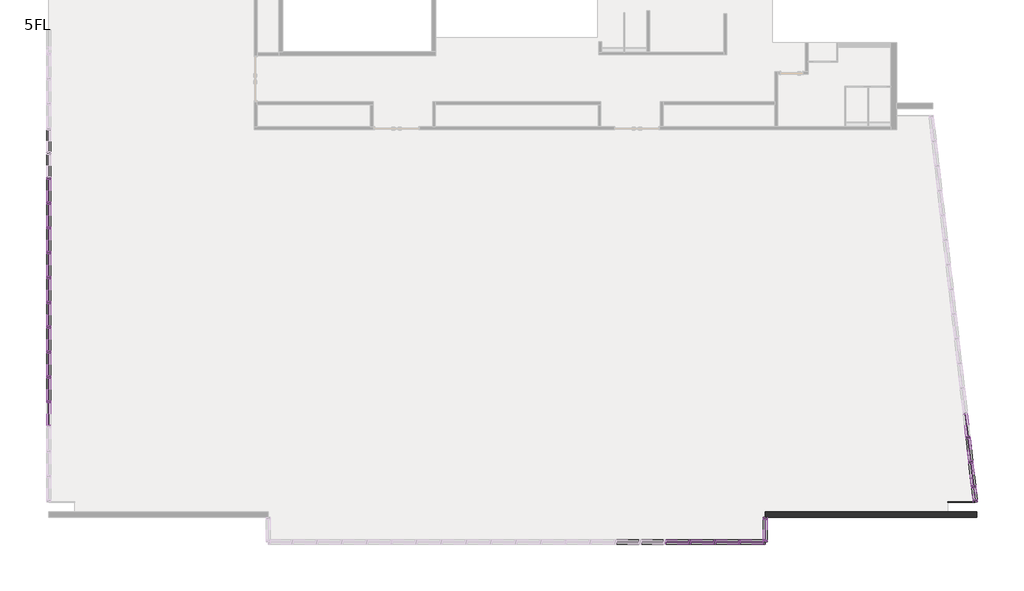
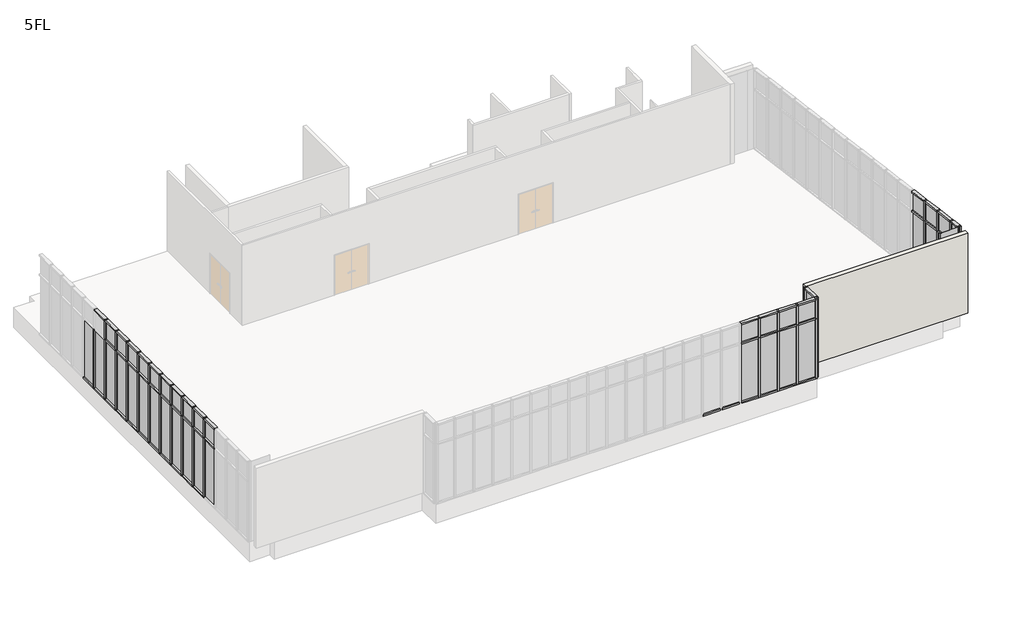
# One storey, part 2 of 4: 101 members, 42 plates, 1 wall.
"""IFC4 building model written with IfcOpenShell, lengths in millimetres."""

from ifc_helpers import new_model, si_unit, frame, origin, place, context, project, spatial, polyline, outline, extrude, transform, mapped, element, save
from components import member_70x150_cdd4dcf9, member_70x150_9a135ce4, member_70x150_66cf63de, member_70x150_26475b18, member_70x150_ad4265bc, member_70x150_e0eddb57, member_70x150_1b280ac3, member_70x150_76429c73, member_70x150_98b0aed0, member_70x150_87b27eb4, plate_d1366ea1, plate_5a60b334, plate_28587fd3, plate_4b01b467, plate_396bcf3c, plate_83f08a3e, plate_de90d239, plate_46ceffe4

model = new_model("IFC4")

# Units and contexts
model_context = context("Model", 3, world=origin())
ifc_project = project(units=[si_unit("LENGTHUNIT", "METRE", prefix="MILLI")], contexts=[model_context])

# Site, building, storey
site = spatial("IfcSite", under=ifc_project)
building = spatial("IfcBuilding", under=site)
storey = spatial("IfcBuildingStorey", under=building, Name="5FL", Elevation=16600.0)

# Members
placement = place(None, origin())
member_70x150_shape = member_70x150_cdd4dcf9(model_context)
element("IfcMember", 1, ObjectType="長方形のマリオン : 70x150", at=placement, inside=storey, context=model_context, shape_type="MappedRepresentation", body=[
    mapped(member_70x150_shape, transform((-5230.9784025, -4550.3131013, 16600.0), x_axis=(-1.0, 0.0, 0.0), y_axis=(0.0, 1.0, 0.0), z_axis=(0.0, 0.0, -1.0))),
])
element("IfcMember", 2, ObjectType="長方形のマリオン : 70x150", at=placement, inside=storey, context=model_context, shape_type="MappedRepresentation", body=[
    mapped(member_70x150_shape, transform((-4330.9784025, -4550.3131013, 16600.0), x_axis=(-1.0, 0.0, 0.0), y_axis=(0.0, 1.0, 0.0), z_axis=(0.0, 0.0, -1.0))),
])
element("IfcMember", 3, ObjectType="長方形のマリオン : 70x150", at=placement, inside=storey, context=model_context, shape_type="MappedRepresentation", body=[
    mapped(member_70x150_shape, transform((-6130.9784025, -4550.3131013, 16600.0), x_axis=(-1.0, 0.0, 0.0), y_axis=(0.0, 1.0, 0.0), z_axis=(0.0, 0.0, -1.0))),
])
element("IfcMember", 4, ObjectType="長方形のマリオン : 70x150", at=placement, inside=storey, context=model_context, shape_type="MappedRepresentation", body=[
    mapped(member_70x150_shape, transform((4147.3841348, -2547.7778257, 16600.0), x_axis=(0.11354659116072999, -0.9935326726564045, 0.0), y_axis=(-0.9935326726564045, -0.11354659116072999, 0.0), z_axis=(0.0, 0.0, -1.0))),
])
element("IfcMember", 5, ObjectType="長方形のマリオン : 70x150", at=placement, inside=storey, context=model_context, shape_type="MappedRepresentation", body=[
    mapped(member_70x150_shape, transform((4045.1922027, -1653.5984203, 16600.0), x_axis=(0.11354659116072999, -0.9935326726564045, 0.0), y_axis=(-0.9935326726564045, -0.11354659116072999, 0.0), z_axis=(0.0, 0.0, -1.0))),
])
element("IfcMember", 6, ObjectType="長方形のマリオン : 70x150", at=placement, inside=storey, context=model_context, shape_type="MappedRepresentation", body=[
    mapped(member_70x150_shape, transform((3943.0002707, -759.4190149, 16600.0), x_axis=(0.11354659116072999, -0.9935326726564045, 0.0), y_axis=(-0.9935326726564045, -0.11354659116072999, 0.0), z_axis=(0.0, 0.0, -1.0))),
])
element("IfcMember", 7, ObjectType="長方形のマリオン : 70x150", at=placement, inside=storey, context=model_context, shape_type="MappedRepresentation", body=[
    mapped(member_70x150_shape, transform((-29345.9784025, 9534.6868987, 16600.0), x_axis=(0.0, 1.0, 0.0), y_axis=(1.0, 0.0, 0.0), z_axis=(0.0, 0.0, -1.0))),
])
element("IfcMember", 8, ObjectType="長方形のマリオン : 70x150", at=placement, inside=storey, context=model_context, shape_type="MappedRepresentation", body=[
    mapped(member_70x150_shape, transform((-29345.9784025, 8634.6868987, 16600.0), x_axis=(0.0, 1.0, 0.0), y_axis=(1.0, 0.0, 0.0), z_axis=(0.0, 0.0, -1.0))),
])
element("IfcMember", 9, ObjectType="長方形のマリオン : 70x150", at=placement, inside=storey, context=model_context, shape_type="MappedRepresentation", body=[
    mapped(member_70x150_shape, transform((-29345.9784025, 7734.6868987, 16600.0), x_axis=(0.0, 1.0, 0.0), y_axis=(1.0, 0.0, 0.0), z_axis=(0.0, 0.0, -1.0))),
])
element("IfcMember", 10, ObjectType="長方形のマリオン : 70x150", at=placement, inside=storey, context=model_context, shape_type="MappedRepresentation", body=[
    mapped(member_70x150_shape, transform((-29345.9784025, 6834.6868987, 16600.0), x_axis=(0.0, 1.0, 0.0), y_axis=(1.0, 0.0, 0.0), z_axis=(0.0, 0.0, -1.0))),
])
element("IfcMember", 11, ObjectType="長方形のマリオン : 70x150", at=placement, inside=storey, context=model_context, shape_type="MappedRepresentation", body=[
    mapped(member_70x150_shape, transform((-29345.9784025, 5934.6868987, 16600.0), x_axis=(0.0, 1.0, 0.0), y_axis=(1.0, 0.0, 0.0), z_axis=(0.0, 0.0, -1.0))),
])
element("IfcMember", 12, ObjectType="長方形のマリオン : 70x150", at=placement, inside=storey, context=model_context, shape_type="MappedRepresentation", body=[
    mapped(member_70x150_shape, transform((-29345.9784025, 5034.6868987, 16600.0), x_axis=(0.0, 1.0, 0.0), y_axis=(1.0, 0.0, 0.0), z_axis=(0.0, 0.0, -1.0))),
])
element("IfcMember", 13, ObjectType="長方形のマリオン : 70x150", at=placement, inside=storey, context=model_context, shape_type="MappedRepresentation", body=[
    mapped(member_70x150_shape, transform((-29345.9784025, 4134.6868987, 16600.0), x_axis=(0.0, 1.0, 0.0), y_axis=(1.0, 0.0, 0.0), z_axis=(0.0, 0.0, -1.0))),
])
element("IfcMember", 14, ObjectType="長方形のマリオン : 70x150", at=placement, inside=storey, context=model_context, shape_type="MappedRepresentation", body=[
    mapped(member_70x150_shape, transform((-29345.9784025, 3234.6868987, 16600.0), x_axis=(0.0, 1.0, 0.0), y_axis=(1.0, 0.0, 0.0), z_axis=(0.0, 0.0, -1.0))),
])
element("IfcMember", 15, ObjectType="長方形のマリオン : 70x150", at=placement, inside=storey, context=model_context, shape_type="MappedRepresentation", body=[
    mapped(member_70x150_shape, transform((-29345.9784025, 2334.6868987, 16600.0), x_axis=(0.0, 1.0, 0.0), y_axis=(1.0, 0.0, 0.0), z_axis=(0.0, 0.0, -1.0))),
])
element("IfcMember", 16, ObjectType="長方形のマリオン : 70x150", at=placement, inside=storey, context=model_context, shape_type="MappedRepresentation", body=[
    mapped(member_70x150_shape, transform((-29345.9784025, 1434.6868987, 16600.0), x_axis=(0.0, 1.0, 0.0), y_axis=(1.0, 0.0, 0.0), z_axis=(0.0, 0.0, -1.0))),
])
element("IfcMember", 17, ObjectType="長方形のマリオン : 70x150", at=placement, inside=storey, context=model_context, shape_type="MappedRepresentation", body=[
    mapped(member_70x150_shape, transform((-29345.9784025, 534.6868987, 16600.0), x_axis=(0.0, 1.0, 0.0), y_axis=(1.0, 0.0, 0.0), z_axis=(0.0, 0.0, -1.0))),
])
member_70x150_2_shape = member_70x150_9a135ce4(model_context)
element("IfcMember", 18, ObjectType="長方形のマリオン : 70x150", at=placement, inside=storey, context=model_context, shape_type="MappedRepresentation", body=[
    mapped(member_70x150_2_shape, transform((-3395.9784025, -4480.3131013, 20600.0), x_axis=(0.0, 0.0, 1.0), y_axis=(-1.0, 0.0, 0.0), z_axis=(0.0, -1.0, 0.0))),
])
member_70x150_3_shape = member_70x150_66cf63de(model_context)
element("IfcMember", 19, ObjectType="長方形のマリオン : 70x150", at=placement, inside=storey, context=model_context, shape_type="MappedRepresentation", body=[
    mapped(member_70x150_3_shape, transform((-3465.9784025, -4550.3131013, 16600.0), x_axis=(0.0, 0.0, -1.0), y_axis=(0.0, 1.0, 0.0), z_axis=(1.0, 0.0, 0.0))),
])
element("IfcMember", 20, ObjectType="長方形のマリオン : 70x150", at=placement, inside=storey, context=model_context, shape_type="MappedRepresentation", body=[
    mapped(member_70x150_3_shape, transform((-7065.9784025, -4550.3131013, 16600.0), x_axis=(0.0, 0.0, -1.0), y_axis=(0.0, 1.0, 0.0), z_axis=(1.0, 0.0, 0.0))),
])
element("IfcMember", 21, ObjectType="長方形のマリオン : 70x150", at=placement, inside=storey, context=model_context, shape_type="MappedRepresentation", body=[
    mapped(member_70x150_3_shape, transform((-7965.9784025, -4550.3131013, 16600.0), x_axis=(0.0, 0.0, -1.0), y_axis=(0.0, 1.0, 0.0), z_axis=(1.0, 0.0, 0.0))),
])
element("IfcMember", 22, ObjectType="長方形のマリオン : 70x150", at=placement, inside=storey, context=model_context, shape_type="MappedRepresentation", body=[
    mapped(member_70x150_3_shape, transform((-4365.9784025, -4550.3131013, 16600.0), x_axis=(0.0, 0.0, -1.0), y_axis=(0.0, 1.0, 0.0), z_axis=(1.0, 0.0, 0.0))),
])
element("IfcMember", 23, ObjectType="長方形のマリオン : 70x150", at=placement, inside=storey, context=model_context, shape_type="MappedRepresentation", body=[
    mapped(member_70x150_3_shape, transform((-6165.9784025, -4550.3131013, 16600.0), x_axis=(0.0, 0.0, -1.0), y_axis=(0.0, 1.0, 0.0), z_axis=(1.0, 0.0, 0.0))),
])
element("IfcMember", 24, ObjectType="長方形のマリオン : 70x150", at=placement, inside=storey, context=model_context, shape_type="MappedRepresentation", body=[
    mapped(member_70x150_3_shape, transform((-5265.9784025, -4550.3131013, 16600.0), x_axis=(0.0, 0.0, -1.0), y_axis=(0.0, 1.0, 0.0), z_axis=(1.0, 0.0, 0.0))),
])
element("IfcMember", 25, ObjectType="長方形のマリオン : 70x150", at=placement, inside=storey, context=model_context, shape_type="MappedRepresentation", body=[
    mapped(member_70x150_3_shape, transform((4049.1663334, -1688.3720639, 16600.0), x_axis=(0.0, 0.0, -1.0), y_axis=(-0.9935326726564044, -0.11354659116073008, 0.0), z_axis=(-0.11354659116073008, 0.9935326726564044, 0.0))),
])
element("IfcMember", 26, ObjectType="長方形のマリオン : 70x150", at=placement, inside=storey, context=model_context, shape_type="MappedRepresentation", body=[
    mapped(member_70x150_3_shape, transform((3946.9744014, -794.1926585, 16600.0), x_axis=(0.0, 0.0, -1.0), y_axis=(-0.9935326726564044, -0.1135465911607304, 0.0), z_axis=(-0.11354659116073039, 0.9935326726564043, 0.0))),
])
element("IfcMember", 27, ObjectType="長方形のマリオン : 70x150", at=placement, inside=storey, context=model_context, shape_type="MappedRepresentation", body=[
    mapped(member_70x150_3_shape, transform((-29345.9784025, 9569.6868987, 16600.0), x_axis=(0.0, 0.0, -1.0), y_axis=(1.0, 0.0, 0.0), z_axis=(0.0, -1.0, 0.0))),
])
element("IfcMember", 28, ObjectType="長方形のマリオン : 70x150", at=placement, inside=storey, context=model_context, shape_type="MappedRepresentation", body=[
    mapped(member_70x150_3_shape, transform((-29345.9784025, 8669.6868987, 16600.0), x_axis=(0.0, 0.0, -1.0), y_axis=(1.0, 0.0, 0.0), z_axis=(0.0, -1.0, 0.0))),
])
element("IfcMember", 29, ObjectType="長方形のマリオン : 70x150", at=placement, inside=storey, context=model_context, shape_type="MappedRepresentation", body=[
    mapped(member_70x150_3_shape, transform((-29345.9784025, 7769.6868987, 16600.0), x_axis=(0.0, 0.0, -1.0), y_axis=(1.0, 0.0, 0.0), z_axis=(0.0, -1.0, 0.0))),
])
element("IfcMember", 30, ObjectType="長方形のマリオン : 70x150", at=placement, inside=storey, context=model_context, shape_type="MappedRepresentation", body=[
    mapped(member_70x150_3_shape, transform((-29345.9784025, 6869.6868987, 16600.0), x_axis=(0.0, 0.0, -1.0), y_axis=(1.0, 0.0, 0.0), z_axis=(0.0, -1.0, 0.0))),
])
element("IfcMember", 31, ObjectType="長方形のマリオン : 70x150", at=placement, inside=storey, context=model_context, shape_type="MappedRepresentation", body=[
    mapped(member_70x150_3_shape, transform((-29345.9784025, 5969.6868987, 16600.0), x_axis=(0.0, 0.0, -1.0), y_axis=(1.0, 0.0, 0.0), z_axis=(0.0, -1.0, 0.0))),
])
element("IfcMember", 32, ObjectType="長方形のマリオン : 70x150", at=placement, inside=storey, context=model_context, shape_type="MappedRepresentation", body=[
    mapped(member_70x150_3_shape, transform((-29345.9784025, 5069.6868987, 16600.0), x_axis=(0.0, 0.0, -1.0), y_axis=(1.0, 0.0, 0.0), z_axis=(0.0, -1.0, 0.0))),
])
element("IfcMember", 33, ObjectType="長方形のマリオン : 70x150", at=placement, inside=storey, context=model_context, shape_type="MappedRepresentation", body=[
    mapped(member_70x150_3_shape, transform((-29345.9784025, 4169.6868987, 16600.0), x_axis=(0.0, 0.0, -1.0), y_axis=(1.0, 0.0, 0.0), z_axis=(0.0, -1.0, 0.0))),
])
element("IfcMember", 34, ObjectType="長方形のマリオン : 70x150", at=placement, inside=storey, context=model_context, shape_type="MappedRepresentation", body=[
    mapped(member_70x150_3_shape, transform((-29345.9784025, 3269.6868987, 16600.0), x_axis=(0.0, 0.0, -1.0), y_axis=(1.0, 0.0, 0.0), z_axis=(0.0, -1.0, 0.0))),
])
element("IfcMember", 35, ObjectType="長方形のマリオン : 70x150", at=placement, inside=storey, context=model_context, shape_type="MappedRepresentation", body=[
    mapped(member_70x150_3_shape, transform((-29345.9784025, 2369.6868987, 16600.0), x_axis=(0.0, 0.0, -1.0), y_axis=(1.0, 0.0, 0.0), z_axis=(0.0, -1.0, 0.0))),
])
element("IfcMember", 36, ObjectType="長方形のマリオン : 70x150", at=placement, inside=storey, context=model_context, shape_type="MappedRepresentation", body=[
    mapped(member_70x150_3_shape, transform((-29345.9784025, 1469.6868987, 16600.0), x_axis=(0.0, 0.0, -1.0), y_axis=(1.0, 0.0, 0.0), z_axis=(0.0, -1.0, 0.0))),
])
element("IfcMember", 37, ObjectType="長方形のマリオン : 70x150", at=placement, inside=storey, context=model_context, shape_type="MappedRepresentation", body=[
    mapped(member_70x150_3_shape, transform((-29345.9784025, 569.6868987, 16600.0), x_axis=(0.0, 0.0, -1.0), y_axis=(1.0, 0.0, 0.0), z_axis=(0.0, -1.0, 0.0))),
])
element("IfcMember", 38, ObjectType="長方形のマリオン : 70x150", at=placement, inside=storey, context=model_context, shape_type="MappedRepresentation", body=[
    mapped(member_70x150_3_shape, transform((-6995.9784025, -4550.3131013, 20600.0), x_axis=(0.0, 0.0, 1.0), y_axis=(0.0, 1.0, 0.0), z_axis=(-1.0, 0.0, 0.0))),
])
element("IfcMember", 39, ObjectType="長方形のマリオン : 70x150", at=placement, inside=storey, context=model_context, shape_type="MappedRepresentation", body=[
    mapped(member_70x150_3_shape, transform((-6095.9784025, -4550.3131013, 20600.0), x_axis=(0.0, 0.0, 1.0), y_axis=(0.0, 1.0, 0.0), z_axis=(-1.0, 0.0, 0.0))),
])
element("IfcMember", 40, ObjectType="長方形のマリオン : 70x150", at=placement, inside=storey, context=model_context, shape_type="MappedRepresentation", body=[
    mapped(member_70x150_3_shape, transform((-5195.9784025, -4550.3131013, 20600.0), x_axis=(0.0, 0.0, 1.0), y_axis=(0.0, 1.0, 0.0), z_axis=(-1.0, 0.0, 0.0))),
])
element("IfcMember", 41, ObjectType="長方形のマリオン : 70x150", at=placement, inside=storey, context=model_context, shape_type="MappedRepresentation", body=[
    mapped(member_70x150_3_shape, transform((-4295.9784025, -4550.3131013, 20600.0), x_axis=(0.0, 0.0, 1.0), y_axis=(0.0, 1.0, 0.0), z_axis=(-1.0, 0.0, 0.0))),
])
element("IfcMember", 42, ObjectType="長方形のマリオン : 70x150", at=placement, inside=storey, context=model_context, shape_type="MappedRepresentation", body=[
    mapped(member_70x150_3_shape, transform((4143.4100041, -2513.0041822, 20600.0), x_axis=(0.0, 0.0, 1.0), y_axis=(-0.9935326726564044, -0.11354659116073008, 0.0), z_axis=(0.11354659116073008, -0.9935326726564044, 0.0))),
])
element("IfcMember", 43, ObjectType="長方形のマリオン : 70x150", at=placement, inside=storey, context=model_context, shape_type="MappedRepresentation", body=[
    mapped(member_70x150_3_shape, transform((4041.2180721, -1618.8247768, 20600.0), x_axis=(0.0, 0.0, 1.0), y_axis=(-0.9935326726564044, -0.1135465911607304, 0.0), z_axis=(0.11354659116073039, -0.9935326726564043, 0.0))),
])
element("IfcMember", 44, ObjectType="長方形のマリオン : 70x150", at=placement, inside=storey, context=model_context, shape_type="MappedRepresentation", body=[
    mapped(member_70x150_3_shape, transform((3939.02614, -724.6453714, 20600.0), x_axis=(0.0, 0.0, 1.0), y_axis=(-0.9935326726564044, -0.11354659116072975, 0.0), z_axis=(0.11354659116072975, -0.9935326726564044, 0.0))),
])
element("IfcMember", 45, ObjectType="長方形のマリオン : 70x150", at=placement, inside=storey, context=model_context, shape_type="MappedRepresentation", body=[
    mapped(member_70x150_3_shape, transform((-29345.9784025, 9499.6868987, 20600.0), x_axis=(0.0, 0.0, 1.0), y_axis=(1.0, 0.0, 0.0), z_axis=(0.0, 1.0, 0.0))),
])
element("IfcMember", 46, ObjectType="長方形のマリオン : 70x150", at=placement, inside=storey, context=model_context, shape_type="MappedRepresentation", body=[
    mapped(member_70x150_3_shape, transform((-29345.9784025, 8599.6868987, 20600.0), x_axis=(0.0, 0.0, 1.0), y_axis=(1.0, 0.0, 0.0), z_axis=(0.0, 1.0, 0.0))),
])
element("IfcMember", 47, ObjectType="長方形のマリオン : 70x150", at=placement, inside=storey, context=model_context, shape_type="MappedRepresentation", body=[
    mapped(member_70x150_3_shape, transform((-29345.9784025, 7699.6868987, 20600.0), x_axis=(0.0, 0.0, 1.0), y_axis=(1.0, 0.0, 0.0), z_axis=(0.0, 1.0, 0.0))),
])
element("IfcMember", 48, ObjectType="長方形のマリオン : 70x150", at=placement, inside=storey, context=model_context, shape_type="MappedRepresentation", body=[
    mapped(member_70x150_3_shape, transform((-29345.9784025, 6799.6868987, 20600.0), x_axis=(0.0, 0.0, 1.0), y_axis=(1.0, 0.0, 0.0), z_axis=(0.0, 1.0, 0.0))),
])
element("IfcMember", 49, ObjectType="長方形のマリオン : 70x150", at=placement, inside=storey, context=model_context, shape_type="MappedRepresentation", body=[
    mapped(member_70x150_3_shape, transform((-29345.9784025, 5899.6868987, 20600.0), x_axis=(0.0, 0.0, 1.0), y_axis=(1.0, 0.0, 0.0), z_axis=(0.0, 1.0, 0.0))),
])
element("IfcMember", 50, ObjectType="長方形のマリオン : 70x150", at=placement, inside=storey, context=model_context, shape_type="MappedRepresentation", body=[
    mapped(member_70x150_3_shape, transform((-29345.9784025, 4999.6868987, 20600.0), x_axis=(0.0, 0.0, 1.0), y_axis=(1.0, 0.0, 0.0), z_axis=(0.0, 1.0, 0.0))),
])
element("IfcMember", 51, ObjectType="長方形のマリオン : 70x150", at=placement, inside=storey, context=model_context, shape_type="MappedRepresentation", body=[
    mapped(member_70x150_3_shape, transform((-29345.9784025, 4099.6868987, 20600.0), x_axis=(0.0, 0.0, 1.0), y_axis=(1.0, 0.0, 0.0), z_axis=(0.0, 1.0, 0.0))),
])
element("IfcMember", 52, ObjectType="長方形のマリオン : 70x150", at=placement, inside=storey, context=model_context, shape_type="MappedRepresentation", body=[
    mapped(member_70x150_3_shape, transform((-29345.9784025, 3199.6868987, 20600.0), x_axis=(0.0, 0.0, 1.0), y_axis=(1.0, 0.0, 0.0), z_axis=(0.0, 1.0, 0.0))),
])
element("IfcMember", 53, ObjectType="長方形のマリオン : 70x150", at=placement, inside=storey, context=model_context, shape_type="MappedRepresentation", body=[
    mapped(member_70x150_3_shape, transform((-29345.9784025, 2299.6868987, 20600.0), x_axis=(0.0, 0.0, 1.0), y_axis=(1.0, 0.0, 0.0), z_axis=(0.0, 1.0, 0.0))),
])
element("IfcMember", 54, ObjectType="長方形のマリオン : 70x150", at=placement, inside=storey, context=model_context, shape_type="MappedRepresentation", body=[
    mapped(member_70x150_3_shape, transform((-29345.9784025, 1399.6868987, 20600.0), x_axis=(0.0, 0.0, 1.0), y_axis=(1.0, 0.0, 0.0), z_axis=(0.0, 1.0, 0.0))),
])
element("IfcMember", 55, ObjectType="長方形のマリオン : 70x150", at=placement, inside=storey, context=model_context, shape_type="MappedRepresentation", body=[
    mapped(member_70x150_3_shape, transform((-29345.9784025, 499.6868987, 20600.0), x_axis=(0.0, 0.0, 1.0), y_axis=(1.0, 0.0, 0.0), z_axis=(0.0, 1.0, 0.0))),
])
element("IfcMember", 56, ObjectType="長方形のマリオン : 70x150", at=placement, inside=storey, context=model_context, shape_type="MappedRepresentation", body=[
    mapped(member_70x150_2_shape, transform((-3395.9784025, -3720.3131013, 16600.0), x_axis=(0.0, 0.0, -1.0), y_axis=(-1.0, 0.0, 0.0), z_axis=(0.0, 1.0, 0.0))),
])
member_70x150_4_shape = member_70x150_26475b18(model_context)
element("IfcMember", 57, ObjectType="長方形のマリオン : 70x150", at=placement, inside=storey, context=model_context, shape_type="MappedRepresentation", body=[
    mapped(member_70x150_4_shape, transform((-6130.9784025, -4550.3131013, 19600.0), x_axis=(-1.0, 0.0, 0.0), y_axis=(0.0, 1.0, 0.0), z_axis=(0.0, 0.0, -1.0))),
])
element("IfcMember", 58, ObjectType="長方形のマリオン : 70x150", at=placement, inside=storey, context=model_context, shape_type="MappedRepresentation", body=[
    mapped(member_70x150_4_shape, transform((-5230.9784025, -4550.3131013, 19600.0), x_axis=(-1.0, 0.0, 0.0), y_axis=(0.0, 1.0, 0.0), z_axis=(0.0, 0.0, -1.0))),
])
element("IfcMember", 59, ObjectType="長方形のマリオン : 70x150", at=placement, inside=storey, context=model_context, shape_type="MappedRepresentation", body=[
    mapped(member_70x150_4_shape, transform((-4330.9784025, -4550.3131013, 19600.0), x_axis=(-1.0, 0.0, 0.0), y_axis=(0.0, 1.0, 0.0), z_axis=(0.0, 0.0, -1.0))),
])
element("IfcMember", 60, ObjectType="長方形のマリオン : 70x150", at=placement, inside=storey, context=model_context, shape_type="MappedRepresentation", body=[
    mapped(member_70x150_4_shape, transform((3943.0002707, -759.4190149, 19600.0), x_axis=(0.11354659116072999, -0.9935326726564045, 0.0), y_axis=(-0.9935326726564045, -0.11354659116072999, 0.0), z_axis=(0.0, 0.0, -1.0))),
])
element("IfcMember", 61, ObjectType="長方形のマリオン : 70x150", at=placement, inside=storey, context=model_context, shape_type="MappedRepresentation", body=[
    mapped(member_70x150_4_shape, transform((4045.1922027, -1653.5984203, 19600.0), x_axis=(0.11354659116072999, -0.9935326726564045, 0.0), y_axis=(-0.9935326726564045, -0.11354659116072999, 0.0), z_axis=(0.0, 0.0, -1.0))),
])
element("IfcMember", 62, ObjectType="長方形のマリオン : 70x150", at=placement, inside=storey, context=model_context, shape_type="MappedRepresentation", body=[
    mapped(member_70x150_4_shape, transform((4147.3841348, -2547.7778257, 19600.0), x_axis=(0.11354659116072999, -0.9935326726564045, 0.0), y_axis=(-0.9935326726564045, -0.11354659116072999, 0.0), z_axis=(0.0, 0.0, -1.0))),
])
element("IfcMember", 63, ObjectType="長方形のマリオン : 70x150", at=placement, inside=storey, context=model_context, shape_type="MappedRepresentation", body=[
    mapped(member_70x150_4_shape, transform((-29345.9784025, 8634.6868987, 19600.0), x_axis=(0.0, 1.0, 0.0), y_axis=(1.0, 0.0, 0.0), z_axis=(0.0, 0.0, -1.0))),
])
element("IfcMember", 64, ObjectType="長方形のマリオン : 70x150", at=placement, inside=storey, context=model_context, shape_type="MappedRepresentation", body=[
    mapped(member_70x150_4_shape, transform((-29345.9784025, 7734.6868987, 19600.0), x_axis=(0.0, 1.0, 0.0), y_axis=(1.0, 0.0, 0.0), z_axis=(0.0, 0.0, -1.0))),
])
element("IfcMember", 65, ObjectType="長方形のマリオン : 70x150", at=placement, inside=storey, context=model_context, shape_type="MappedRepresentation", body=[
    mapped(member_70x150_4_shape, transform((-29345.9784025, 6834.6868987, 19600.0), x_axis=(0.0, 1.0, 0.0), y_axis=(1.0, 0.0, 0.0), z_axis=(0.0, 0.0, -1.0))),
])
element("IfcMember", 66, ObjectType="長方形のマリオン : 70x150", at=placement, inside=storey, context=model_context, shape_type="MappedRepresentation", body=[
    mapped(member_70x150_4_shape, transform((-29345.9784025, 5934.6868987, 19600.0), x_axis=(0.0, 1.0, 0.0), y_axis=(1.0, 0.0, 0.0), z_axis=(0.0, 0.0, -1.0))),
])
element("IfcMember", 67, ObjectType="長方形のマリオン : 70x150", at=placement, inside=storey, context=model_context, shape_type="MappedRepresentation", body=[
    mapped(member_70x150_4_shape, transform((-29345.9784025, 5034.6868987, 19600.0), x_axis=(0.0, 1.0, 0.0), y_axis=(1.0, 0.0, 0.0), z_axis=(0.0, 0.0, -1.0))),
])
element("IfcMember", 68, ObjectType="長方形のマリオン : 70x150", at=placement, inside=storey, context=model_context, shape_type="MappedRepresentation", body=[
    mapped(member_70x150_4_shape, transform((-29345.9784025, 4134.6868987, 19600.0), x_axis=(0.0, 1.0, 0.0), y_axis=(1.0, 0.0, 0.0), z_axis=(0.0, 0.0, -1.0))),
])
element("IfcMember", 69, ObjectType="長方形のマリオン : 70x150", at=placement, inside=storey, context=model_context, shape_type="MappedRepresentation", body=[
    mapped(member_70x150_4_shape, transform((-29345.9784025, 3234.6868987, 19600.0), x_axis=(0.0, 1.0, 0.0), y_axis=(1.0, 0.0, 0.0), z_axis=(0.0, 0.0, -1.0))),
])
element("IfcMember", 70, ObjectType="長方形のマリオン : 70x150", at=placement, inside=storey, context=model_context, shape_type="MappedRepresentation", body=[
    mapped(member_70x150_4_shape, transform((-29345.9784025, 2334.6868987, 19600.0), x_axis=(0.0, 1.0, 0.0), y_axis=(1.0, 0.0, 0.0), z_axis=(0.0, 0.0, -1.0))),
])
element("IfcMember", 71, ObjectType="長方形のマリオン : 70x150", at=placement, inside=storey, context=model_context, shape_type="MappedRepresentation", body=[
    mapped(member_70x150_4_shape, transform((-29345.9784025, 1434.6868987, 19600.0), x_axis=(0.0, 1.0, 0.0), y_axis=(1.0, 0.0, 0.0), z_axis=(0.0, 0.0, -1.0))),
])
element("IfcMember", 72, ObjectType="長方形のマリオン : 70x150", at=placement, inside=storey, context=model_context, shape_type="MappedRepresentation", body=[
    mapped(member_70x150_4_shape, transform((-29345.9784025, 534.6868987, 19600.0), x_axis=(0.0, 1.0, 0.0), y_axis=(1.0, 0.0, 0.0), z_axis=(0.0, 0.0, -1.0))),
])
member_70x150_5_shape = member_70x150_ad4265bc(model_context)
element("IfcMember", 73, ObjectType="長方形のマリオン : 70x150", at=placement, inside=storey, context=model_context, shape_type="MappedRepresentation", body=[
    mapped(member_70x150_5_shape, transform((-5195.9784025, -4550.3131013, 19600.0), x_axis=(0.0, 0.0, 1.0), y_axis=(0.0, 1.0, 0.0), z_axis=(-1.0, 0.0, 0.0))),
])
element("IfcMember", 74, ObjectType="長方形のマリオン : 70x150", at=placement, inside=storey, context=model_context, shape_type="MappedRepresentation", body=[
    mapped(member_70x150_5_shape, transform((-6995.9784025, -4550.3131013, 19600.0), x_axis=(0.0, 0.0, 1.0), y_axis=(0.0, 1.0, 0.0), z_axis=(-1.0, 0.0, 0.0))),
])
element("IfcMember", 75, ObjectType="長方形のマリオン : 70x150", at=placement, inside=storey, context=model_context, shape_type="MappedRepresentation", body=[
    mapped(member_70x150_5_shape, transform((-6095.9784025, -4550.3131013, 19600.0), x_axis=(0.0, 0.0, 1.0), y_axis=(0.0, 1.0, 0.0), z_axis=(-1.0, 0.0, 0.0))),
])
element("IfcMember", 76, ObjectType="長方形のマリオン : 70x150", at=placement, inside=storey, context=model_context, shape_type="MappedRepresentation", body=[
    mapped(member_70x150_5_shape, transform((-4295.9784025, -4550.3131013, 19600.0), x_axis=(0.0, 0.0, 1.0), y_axis=(0.0, 1.0, 0.0), z_axis=(-1.0, 0.0, 0.0))),
])
element("IfcMember", 77, ObjectType="長方形のマリオン : 70x150", at=placement, inside=storey, context=model_context, shape_type="MappedRepresentation", body=[
    mapped(member_70x150_5_shape, transform((4143.4100041, -2513.0041822, 19600.0), x_axis=(0.0, 0.0, 1.0), y_axis=(-0.9935326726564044, -0.11354659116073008, 0.0), z_axis=(0.11354659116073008, -0.9935326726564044, 0.0))),
])
element("IfcMember", 78, ObjectType="長方形のマリオン : 70x150", at=placement, inside=storey, context=model_context, shape_type="MappedRepresentation", body=[
    mapped(member_70x150_5_shape, transform((4041.2180721, -1618.8247768, 19600.0), x_axis=(0.0, 0.0, 1.0), y_axis=(-0.9935326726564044, -0.1135465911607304, 0.0), z_axis=(0.11354659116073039, -0.9935326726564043, 0.0))),
])
element("IfcMember", 79, ObjectType="長方形のマリオン : 70x150", at=placement, inside=storey, context=model_context, shape_type="MappedRepresentation", body=[
    mapped(member_70x150_5_shape, transform((3939.02614, -724.6453714, 19600.0), x_axis=(0.0, 0.0, 1.0), y_axis=(-0.9935326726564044, -0.11354659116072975, 0.0), z_axis=(0.11354659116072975, -0.9935326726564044, 0.0))),
])
element("IfcMember", 80, ObjectType="長方形のマリオン : 70x150", at=placement, inside=storey, context=model_context, shape_type="MappedRepresentation", body=[
    mapped(member_70x150_5_shape, transform((-29345.9784025, 2299.6868987, 19600.0), x_axis=(0.0, 0.0, 1.0), y_axis=(1.0, 0.0, 0.0), z_axis=(0.0, 1.0, 0.0))),
])
element("IfcMember", 81, ObjectType="長方形のマリオン : 70x150", at=placement, inside=storey, context=model_context, shape_type="MappedRepresentation", body=[
    mapped(member_70x150_5_shape, transform((-29345.9784025, 499.6868987, 19600.0), x_axis=(0.0, 0.0, 1.0), y_axis=(1.0, 0.0, 0.0), z_axis=(0.0, 1.0, 0.0))),
])
element("IfcMember", 82, ObjectType="長方形のマリオン : 70x150", at=placement, inside=storey, context=model_context, shape_type="MappedRepresentation", body=[
    mapped(member_70x150_5_shape, transform((-29345.9784025, 3199.6868987, 19600.0), x_axis=(0.0, 0.0, 1.0), y_axis=(1.0, 0.0, 0.0), z_axis=(0.0, 1.0, 0.0))),
])
element("IfcMember", 83, ObjectType="長方形のマリオン : 70x150", at=placement, inside=storey, context=model_context, shape_type="MappedRepresentation", body=[
    mapped(member_70x150_5_shape, transform((-29345.9784025, 5899.6868987, 19600.0), x_axis=(0.0, 0.0, 1.0), y_axis=(1.0, 0.0, 0.0), z_axis=(0.0, 1.0, 0.0))),
])
element("IfcMember", 84, ObjectType="長方形のマリオン : 70x150", at=placement, inside=storey, context=model_context, shape_type="MappedRepresentation", body=[
    mapped(member_70x150_5_shape, transform((-29345.9784025, 7699.6868987, 19600.0), x_axis=(0.0, 0.0, 1.0), y_axis=(1.0, 0.0, 0.0), z_axis=(0.0, 1.0, 0.0))),
])
element("IfcMember", 85, ObjectType="長方形のマリオン : 70x150", at=placement, inside=storey, context=model_context, shape_type="MappedRepresentation", body=[
    mapped(member_70x150_5_shape, transform((-29345.9784025, 4099.6868987, 19600.0), x_axis=(0.0, 0.0, 1.0), y_axis=(1.0, 0.0, 0.0), z_axis=(0.0, 1.0, 0.0))),
])
element("IfcMember", 86, ObjectType="長方形のマリオン : 70x150", at=placement, inside=storey, context=model_context, shape_type="MappedRepresentation", body=[
    mapped(member_70x150_5_shape, transform((-29345.9784025, 1399.6868987, 19600.0), x_axis=(0.0, 0.0, 1.0), y_axis=(1.0, 0.0, 0.0), z_axis=(0.0, 1.0, 0.0))),
])
element("IfcMember", 87, ObjectType="長方形のマリオン : 70x150", at=placement, inside=storey, context=model_context, shape_type="MappedRepresentation", body=[
    mapped(member_70x150_5_shape, transform((-29345.9784025, 8599.6868987, 19600.0), x_axis=(0.0, 0.0, 1.0), y_axis=(1.0, 0.0, 0.0), z_axis=(0.0, 1.0, 0.0))),
])
element("IfcMember", 88, ObjectType="長方形のマリオン : 70x150", at=placement, inside=storey, context=model_context, shape_type="MappedRepresentation", body=[
    mapped(member_70x150_5_shape, transform((-29345.9784025, 4999.6868987, 19600.0), x_axis=(0.0, 0.0, 1.0), y_axis=(1.0, 0.0, 0.0), z_axis=(0.0, 1.0, 0.0))),
])
element("IfcMember", 89, ObjectType="長方形のマリオン : 70x150", at=placement, inside=storey, context=model_context, shape_type="MappedRepresentation", body=[
    mapped(member_70x150_5_shape, transform((-29345.9784025, 6799.6868987, 19600.0), x_axis=(0.0, 0.0, 1.0), y_axis=(1.0, 0.0, 0.0), z_axis=(0.0, 1.0, 0.0))),
])
member_70x150_6_shape = member_70x150_e0eddb57(model_context)
element("IfcMember", 90, ObjectType="長方形のマリオン : 70x150", at=placement, inside=storey, context=model_context, shape_type="MappedRepresentation", body=[
    mapped(member_70x150_6_shape, transform((-3395.9784025, -4480.3131013, 19600.0), x_axis=(0.0, 0.0, 1.0), y_axis=(-1.0, 0.0, 0.0), z_axis=(0.0, -1.0, 0.0))),
])
member_70x150_7_shape = member_70x150_1b280ac3(model_context)
element("IfcMember", 91, ObjectType="長方形のマリオン : 70x150", at=placement, inside=storey, context=model_context, shape_type="MappedRepresentation", body=[
    mapped(member_70x150_7_shape, transform((4210.5310234, -3100.3131013, 16600.0), x_axis=(0.11354659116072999, -0.9935326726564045, 0.0), y_axis=(-0.9935326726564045, -0.11354659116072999, 0.0), z_axis=(0.0, 0.0, -1.0))),
])
element("IfcMember", 92, ObjectType="長方形のマリオン : 70x150", at=placement, inside=storey, context=model_context, shape_type="MappedRepresentation", body=[
    mapped(member_70x150_7_shape, transform((-3395.9784025, -4550.3131013, 16600.0), x_axis=(0.0, -1.0, 0.0), y_axis=(-1.0, 0.0, 0.0), z_axis=(0.0, 0.0, -1.0))),
])
member_70x150_8_shape = member_70x150_76429c73(model_context)
element("IfcMember", 93, ObjectType="長方形のマリオン : 70x150", at=placement, inside=storey, context=model_context, shape_type="MappedRepresentation", body=[
    mapped(member_70x150_8_shape, transform((-3395.9784025, -4550.3131013, 20600.0), x_axis=(1.0, 0.0, 0.0), y_axis=(0.0, 1.0, 0.0), z_axis=(0.0, 0.0, 1.0))),
])
element("IfcMember", 94, ObjectType="長方形のマリオン : 70x150", at=placement, inside=storey, context=model_context, shape_type="MappedRepresentation", body=[
    mapped(member_70x150_8_shape, transform((-3395.9784025, -3650.3131013, 20600.0), x_axis=(0.0, 1.0, 0.0), y_axis=(-1.0, 0.0, 0.0), z_axis=(0.0, 0.0, 1.0))),
])
element("IfcMember", 95, ObjectType="長方形のマリオン : 70x150", at=placement, inside=storey, context=model_context, shape_type="MappedRepresentation", body=[
    mapped(member_70x150_8_shape, transform((4210.5310234, -3100.3131013, 19600.0), x_axis=(0.11354659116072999, -0.9935326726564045, 0.0), y_axis=(-0.9935326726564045, -0.11354659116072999, 0.0), z_axis=(0.0, 0.0, -1.0))),
])
element("IfcMember", 96, ObjectType="長方形のマリオン : 70x150", at=placement, inside=storey, context=model_context, shape_type="MappedRepresentation", body=[
    mapped(member_70x150_8_shape, transform((-3395.9784025, -4550.3131013, 19600.0), x_axis=(0.0, -1.0, 0.0), y_axis=(-1.0, 0.0, 0.0), z_axis=(0.0, 0.0, -1.0))),
])
element("IfcMember", 97, ObjectType="長方形のマリオン : 70x150", at=placement, inside=storey, context=model_context, shape_type="MappedRepresentation", body=[
    mapped(member_70x150_7_shape, transform((-3395.9784025, -4550.3131013, 19600.0), x_axis=(1.0, 0.0, 0.0), y_axis=(0.0, 1.0, 0.0), z_axis=(0.0, 0.0, 1.0))),
])
element("IfcMember", 98, ObjectType="長方形のマリオン : 70x150", at=placement, inside=storey, context=model_context, shape_type="MappedRepresentation", body=[
    mapped(member_70x150_7_shape, transform((-3395.9784025, -3650.3131013, 19600.0), x_axis=(0.0, 1.0, 0.0), y_axis=(-1.0, 0.0, 0.0), z_axis=(0.0, 0.0, 1.0))),
])
member_70x150_9_shape = member_70x150_98b0aed0(model_context)
element("IfcMember", 99, ObjectType="長方形のマリオン : 70x150", at=placement, inside=storey, context=model_context, shape_type="MappedRepresentation", body=[
    mapped(member_70x150_9_shape, transform((4202.582762, -3030.7658142, 20600.0), x_axis=(0.0, 0.0, 1.0), y_axis=(-0.9935326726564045, -0.11354659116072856, 0.0), z_axis=(0.11354659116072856, -0.9935326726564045, 0.0))),
])
element("IfcMember", 100, ObjectType="長方形のマリオン : 70x150", at=placement, inside=storey, context=model_context, shape_type="MappedRepresentation", body=[
    mapped(member_70x150_9_shape, transform((4151.3582655, -2582.5514692, 16600.0), x_axis=(0.0, 0.0, -1.0), y_axis=(-0.9935326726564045, -0.11354659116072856, 0.0), z_axis=(-0.11354659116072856, 0.9935326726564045, 0.0))),
])
member_70x150_10_shape = member_70x150_87b27eb4(model_context)
element("IfcMember", 101, ObjectType="長方形のマリオン : 70x150", at=placement, inside=storey, context=model_context, shape_type="MappedRepresentation", body=[
    mapped(member_70x150_10_shape, transform((4202.582762, -3030.7658142, 19600.0), x_axis=(0.0, 0.0, 1.0), y_axis=(-0.9935326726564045, -0.11354659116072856, 0.0), z_axis=(0.11354659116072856, -0.9935326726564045, 0.0))),
])

# Plates
plate_shape = plate_d1366ea1(model_context)
element("IfcPlate", 102, ObjectType="システム パネル : 標準", at=placement, inside=storey, context=model_context, shape_type="MappedRepresentation", body=[
    mapped(plate_shape, transform((3760.5310234, -3100.3131013, 16600.0), x_axis=(-1.0, 0.0, 0.0), y_axis=(0.0, -1.0, 0.0), z_axis=(0.0, 0.0, 1.0))),
])
plate_2_shape = plate_5a60b334(model_context)
element("IfcPlate", 103, ObjectType="システム パネル : 標準", at=placement, inside=storey, context=model_context, shape_type="MappedRepresentation", body=[
    mapped(plate_2_shape, transform((3257.2763105, -3100.3131013, 16600.0), x_axis=(-1.0, 0.0, 0.0), y_axis=(0.0, -1.0, 0.0), z_axis=(0.0, 0.0, 1.0))),
])
plate_3_shape = plate_28587fd3(model_context)
element("IfcPlate", 104, ObjectType="システム パネル : 標準", at=placement, inside=storey, context=model_context, shape_type="MappedRepresentation", body=[
    mapped(plate_3_shape, transform((3891.9043047, -312.3293122, 16670.0), x_axis=(0.11354659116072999, -0.9935326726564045, 0.0), y_axis=(0.9935326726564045, 0.11354659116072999, 0.0), z_axis=(0.0, 0.0, 1.0))),
])
element("IfcPlate", 105, ObjectType="システム パネル : 標準", at=placement, inside=storey, context=model_context, shape_type="MappedRepresentation", body=[
    mapped(plate_3_shape, transform((3994.0962367, -1206.5087176, 16670.0), x_axis=(0.11354659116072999, -0.9935326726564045, 0.0), y_axis=(0.9935326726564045, 0.11354659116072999, 0.0), z_axis=(0.0, 0.0, 1.0))),
])
element("IfcPlate", 106, ObjectType="システム パネル : 標準", at=placement, inside=storey, context=model_context, shape_type="MappedRepresentation", body=[
    mapped(plate_3_shape, transform((4096.2881688, -2100.688123, 16670.0), x_axis=(0.11354659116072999, -0.9935326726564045, 0.0), y_axis=(0.9935326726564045, 0.11354659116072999, 0.0), z_axis=(0.0, 0.0, 1.0))),
])
element("IfcPlate", 107, ObjectType="システム パネル : 標準", at=placement, inside=storey, context=model_context, shape_type="MappedRepresentation", body=[
    mapped(plate_3_shape, transform((-29345.9784025, 84.6868987, 16670.0), x_axis=(0.0, 1.0, 0.0), y_axis=(-1.0, 0.0, 0.0), z_axis=(0.0, 0.0, 1.0))),
])
element("IfcPlate", 108, ObjectType="システム パネル : 標準", at=placement, inside=storey, context=model_context, shape_type="MappedRepresentation", body=[
    mapped(plate_3_shape, transform((-29345.9784025, 984.6868987, 16670.0), x_axis=(0.0, 1.0, 0.0), y_axis=(-1.0, 0.0, 0.0), z_axis=(0.0, 0.0, 1.0))),
])
element("IfcPlate", 109, ObjectType="システム パネル : 標準", at=placement, inside=storey, context=model_context, shape_type="MappedRepresentation", body=[
    mapped(plate_3_shape, transform((-29345.9784025, 1884.6868987, 16670.0), x_axis=(0.0, 1.0, 0.0), y_axis=(-1.0, 0.0, 0.0), z_axis=(0.0, 0.0, 1.0))),
])
element("IfcPlate", 110, ObjectType="システム パネル : 標準", at=placement, inside=storey, context=model_context, shape_type="MappedRepresentation", body=[
    mapped(plate_3_shape, transform((-29345.9784025, 2784.6868987, 16670.0), x_axis=(0.0, 1.0, 0.0), y_axis=(-1.0, 0.0, 0.0), z_axis=(0.0, 0.0, 1.0))),
])
element("IfcPlate", 111, ObjectType="システム パネル : 標準", at=placement, inside=storey, context=model_context, shape_type="MappedRepresentation", body=[
    mapped(plate_3_shape, transform((-29345.9784025, 3684.6868987, 16670.0), x_axis=(0.0, 1.0, 0.0), y_axis=(-1.0, 0.0, 0.0), z_axis=(0.0, 0.0, 1.0))),
])
element("IfcPlate", 112, ObjectType="システム パネル : 標準", at=placement, inside=storey, context=model_context, shape_type="MappedRepresentation", body=[
    mapped(plate_3_shape, transform((-29345.9784025, 4584.6868987, 16670.0), x_axis=(0.0, 1.0, 0.0), y_axis=(-1.0, 0.0, 0.0), z_axis=(0.0, 0.0, 1.0))),
])
element("IfcPlate", 113, ObjectType="システム パネル : 標準", at=placement, inside=storey, context=model_context, shape_type="MappedRepresentation", body=[
    mapped(plate_3_shape, transform((-29345.9784025, 5484.6868987, 16670.0), x_axis=(0.0, 1.0, 0.0), y_axis=(-1.0, 0.0, 0.0), z_axis=(0.0, 0.0, 1.0))),
])
element("IfcPlate", 114, ObjectType="システム パネル : 標準", at=placement, inside=storey, context=model_context, shape_type="MappedRepresentation", body=[
    mapped(plate_3_shape, transform((-29345.9784025, 6384.6868987, 16670.0), x_axis=(0.0, 1.0, 0.0), y_axis=(-1.0, 0.0, 0.0), z_axis=(0.0, 0.0, 1.0))),
])
element("IfcPlate", 115, ObjectType="システム パネル : 標準", at=placement, inside=storey, context=model_context, shape_type="MappedRepresentation", body=[
    mapped(plate_3_shape, transform((-29345.9784025, 7284.6868987, 16670.0), x_axis=(0.0, 1.0, 0.0), y_axis=(-1.0, 0.0, 0.0), z_axis=(0.0, 0.0, 1.0))),
])
element("IfcPlate", 116, ObjectType="システム パネル : 標準", at=placement, inside=storey, context=model_context, shape_type="MappedRepresentation", body=[
    mapped(plate_3_shape, transform((-29345.9784025, 8184.6868987, 16670.0), x_axis=(0.0, 1.0, 0.0), y_axis=(-1.0, 0.0, 0.0), z_axis=(0.0, 0.0, 1.0))),
])
element("IfcPlate", 117, ObjectType="システム パネル : 標準", at=placement, inside=storey, context=model_context, shape_type="MappedRepresentation", body=[
    mapped(plate_3_shape, transform((-29345.9784025, 9084.6868987, 16670.0), x_axis=(0.0, 1.0, 0.0), y_axis=(-1.0, 0.0, 0.0), z_axis=(0.0, 0.0, 1.0))),
])
element("IfcPlate", 118, ObjectType="システム パネル : 標準", at=placement, inside=storey, context=model_context, shape_type="MappedRepresentation", body=[
    mapped(plate_3_shape, transform((-29345.9784025, 9984.6868987, 16670.0), x_axis=(0.0, 1.0, 0.0), y_axis=(-1.0, 0.0, 0.0), z_axis=(0.0, 0.0, 1.0))),
])
element("IfcPlate", 119, ObjectType="システム パネル : 標準", at=placement, inside=storey, context=model_context, shape_type="MappedRepresentation", body=[
    mapped(plate_3_shape, transform((-3880.9784025, -4550.3131013, 16670.0), x_axis=(-1.0, 0.0, 0.0), y_axis=(0.0, -1.0, 0.0), z_axis=(0.0, 0.0, 1.0))),
])
element("IfcPlate", 120, ObjectType="システム パネル : 標準", at=placement, inside=storey, context=model_context, shape_type="MappedRepresentation", body=[
    mapped(plate_3_shape, transform((-4780.9784025, -4550.3131013, 16670.0), x_axis=(-1.0, 0.0, 0.0), y_axis=(0.0, -1.0, 0.0), z_axis=(0.0, 0.0, 1.0))),
])
element("IfcPlate", 121, ObjectType="システム パネル : 標準", at=placement, inside=storey, context=model_context, shape_type="MappedRepresentation", body=[
    mapped(plate_3_shape, transform((-5680.9784025, -4550.3131013, 16670.0), x_axis=(-1.0, 0.0, 0.0), y_axis=(0.0, -1.0, 0.0), z_axis=(0.0, 0.0, 1.0))),
])
element("IfcPlate", 122, ObjectType="システム パネル : 標準", at=placement, inside=storey, context=model_context, shape_type="MappedRepresentation", body=[
    mapped(plate_3_shape, transform((-6580.9784025, -4550.3131013, 16670.0), x_axis=(-1.0, 0.0, 0.0), y_axis=(0.0, -1.0, 0.0), z_axis=(0.0, 0.0, 1.0))),
])
plate_4_shape = plate_4b01b467(model_context)
element("IfcPlate", 123, ObjectType="システム パネル : 標準", at=placement, inside=storey, context=model_context, shape_type="MappedRepresentation", body=[
    mapped(plate_4_shape, transform((-3395.9784025, -4100.3131013, 16670.0), x_axis=(0.0, -1.0, 0.0), y_axis=(1.0, 0.0, 0.0), z_axis=(0.0, 0.0, 1.0))),
])
plate_5_shape = plate_396bcf3c(model_context)
element("IfcPlate", 124, ObjectType="システム パネル : 標準", at=placement, inside=storey, context=model_context, shape_type="MappedRepresentation", body=[
    mapped(plate_5_shape, transform((-3880.9784025, -4550.3131013, 19635.0), x_axis=(-1.0, 0.0, 0.0), y_axis=(0.0, -1.0, 0.0), z_axis=(0.0, 0.0, 1.0))),
])
element("IfcPlate", 125, ObjectType="システム パネル : 標準", at=placement, inside=storey, context=model_context, shape_type="MappedRepresentation", body=[
    mapped(plate_5_shape, transform((-4780.9784025, -4550.3131013, 19635.0), x_axis=(-1.0, 0.0, 0.0), y_axis=(0.0, -1.0, 0.0), z_axis=(0.0, 0.0, 1.0))),
])
element("IfcPlate", 126, ObjectType="システム パネル : 標準", at=placement, inside=storey, context=model_context, shape_type="MappedRepresentation", body=[
    mapped(plate_5_shape, transform((-5680.9784025, -4550.3131013, 19635.0), x_axis=(-1.0, 0.0, 0.0), y_axis=(0.0, -1.0, 0.0), z_axis=(0.0, 0.0, 1.0))),
])
element("IfcPlate", 127, ObjectType="システム パネル : 標準", at=placement, inside=storey, context=model_context, shape_type="MappedRepresentation", body=[
    mapped(plate_5_shape, transform((-6580.9784025, -4550.3131013, 19635.0), x_axis=(-1.0, 0.0, 0.0), y_axis=(0.0, -1.0, 0.0), z_axis=(0.0, 0.0, 1.0))),
])
element("IfcPlate", 128, ObjectType="システム パネル : 標準", at=placement, inside=storey, context=model_context, shape_type="MappedRepresentation", body=[
    mapped(plate_5_shape, transform((3891.9043047, -312.3293122, 19635.0), x_axis=(0.11354659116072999, -0.9935326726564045, 0.0), y_axis=(0.9935326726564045, 0.11354659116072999, 0.0), z_axis=(0.0, 0.0, 1.0))),
])
element("IfcPlate", 129, ObjectType="システム パネル : 標準", at=placement, inside=storey, context=model_context, shape_type="MappedRepresentation", body=[
    mapped(plate_5_shape, transform((3994.0962367, -1206.5087176, 19635.0), x_axis=(0.11354659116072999, -0.9935326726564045, 0.0), y_axis=(0.9935326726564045, 0.11354659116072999, 0.0), z_axis=(0.0, 0.0, 1.0))),
])
element("IfcPlate", 130, ObjectType="システム パネル : 標準", at=placement, inside=storey, context=model_context, shape_type="MappedRepresentation", body=[
    mapped(plate_5_shape, transform((4096.2881688, -2100.688123, 19635.0), x_axis=(0.11354659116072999, -0.9935326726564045, 0.0), y_axis=(0.9935326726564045, 0.11354659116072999, 0.0), z_axis=(0.0, 0.0, 1.0))),
])
element("IfcPlate", 131, ObjectType="システム パネル : 標準", at=placement, inside=storey, context=model_context, shape_type="MappedRepresentation", body=[
    mapped(plate_5_shape, transform((-29345.9784025, 84.6868987, 19635.0), x_axis=(0.0, 1.0, 0.0), y_axis=(-1.0, 0.0, 0.0), z_axis=(0.0, 0.0, 1.0))),
])
element("IfcPlate", 132, ObjectType="システム パネル : 標準", at=placement, inside=storey, context=model_context, shape_type="MappedRepresentation", body=[
    mapped(plate_5_shape, transform((-29345.9784025, 984.6868987, 19635.0), x_axis=(0.0, 1.0, 0.0), y_axis=(-1.0, 0.0, 0.0), z_axis=(0.0, 0.0, 1.0))),
])
element("IfcPlate", 133, ObjectType="システム パネル : 標準", at=placement, inside=storey, context=model_context, shape_type="MappedRepresentation", body=[
    mapped(plate_5_shape, transform((-29345.9784025, 1884.6868987, 19635.0), x_axis=(0.0, 1.0, 0.0), y_axis=(-1.0, 0.0, 0.0), z_axis=(0.0, 0.0, 1.0))),
])
element("IfcPlate", 134, ObjectType="システム パネル : 標準", at=placement, inside=storey, context=model_context, shape_type="MappedRepresentation", body=[
    mapped(plate_5_shape, transform((-29345.9784025, 2784.6868987, 19635.0), x_axis=(0.0, 1.0, 0.0), y_axis=(-1.0, 0.0, 0.0), z_axis=(0.0, 0.0, 1.0))),
])
element("IfcPlate", 135, ObjectType="システム パネル : 標準", at=placement, inside=storey, context=model_context, shape_type="MappedRepresentation", body=[
    mapped(plate_5_shape, transform((-29345.9784025, 3684.6868987, 19635.0), x_axis=(0.0, 1.0, 0.0), y_axis=(-1.0, 0.0, 0.0), z_axis=(0.0, 0.0, 1.0))),
])
element("IfcPlate", 136, ObjectType="システム パネル : 標準", at=placement, inside=storey, context=model_context, shape_type="MappedRepresentation", body=[
    mapped(plate_5_shape, transform((-29345.9784025, 4584.6868987, 19635.0), x_axis=(0.0, 1.0, 0.0), y_axis=(-1.0, 0.0, 0.0), z_axis=(0.0, 0.0, 1.0))),
])
element("IfcPlate", 137, ObjectType="システム パネル : 標準", at=placement, inside=storey, context=model_context, shape_type="MappedRepresentation", body=[
    mapped(plate_5_shape, transform((-29345.9784025, 5484.6868987, 19635.0), x_axis=(0.0, 1.0, 0.0), y_axis=(-1.0, 0.0, 0.0), z_axis=(0.0, 0.0, 1.0))),
])
element("IfcPlate", 138, ObjectType="システム パネル : 標準", at=placement, inside=storey, context=model_context, shape_type="MappedRepresentation", body=[
    mapped(plate_5_shape, transform((-29345.9784025, 6384.6868987, 19635.0), x_axis=(0.0, 1.0, 0.0), y_axis=(-1.0, 0.0, 0.0), z_axis=(0.0, 0.0, 1.0))),
])
element("IfcPlate", 139, ObjectType="システム パネル : 標準", at=placement, inside=storey, context=model_context, shape_type="MappedRepresentation", body=[
    mapped(plate_5_shape, transform((-29345.9784025, 7284.6868987, 19635.0), x_axis=(0.0, 1.0, 0.0), y_axis=(-1.0, 0.0, 0.0), z_axis=(0.0, 0.0, 1.0))),
])
element("IfcPlate", 140, ObjectType="システム パネル : 標準", at=placement, inside=storey, context=model_context, shape_type="MappedRepresentation", body=[
    mapped(plate_5_shape, transform((-29345.9784025, 8184.6868987, 19635.0), x_axis=(0.0, 1.0, 0.0), y_axis=(-1.0, 0.0, 0.0), z_axis=(0.0, 0.0, 1.0))),
])
plate_6_shape = plate_83f08a3e(model_context)
element("IfcPlate", 141, ObjectType="システム パネル : 標準", at=placement, inside=storey, context=model_context, shape_type="MappedRepresentation", body=[
    mapped(plate_6_shape, transform((-3395.9784025, -4100.3131013, 19635.0), x_axis=(0.0, -1.0, 0.0), y_axis=(1.0, 0.0, 0.0), z_axis=(0.0, 0.0, 1.0))),
])
plate_7_shape = plate_de90d239(model_context)
element("IfcPlate", 142, ObjectType="システム パネル : 標準", at=placement, inside=storey, context=model_context, shape_type="MappedRepresentation", body=[
    mapped(plate_7_shape, transform((4176.9705138, -2806.6586417, 16670.0), x_axis=(0.11354659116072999, -0.9935326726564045, 0.0), y_axis=(0.9935326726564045, 0.11354659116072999, 0.0), z_axis=(0.0, 0.0, 1.0))),
])
plate_8_shape = plate_46ceffe4(model_context)
element("IfcPlate", 143, ObjectType="システム パネル : 標準", at=placement, inside=storey, context=model_context, shape_type="MappedRepresentation", body=[
    mapped(plate_8_shape, transform((4176.9705138, -2806.6586417, 19635.0), x_axis=(0.11354659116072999, -0.9935326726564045, 0.0), y_axis=(0.9935326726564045, 0.11354659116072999, 0.0), z_axis=(0.0, 0.0, 1.0))),
])

# Wall
element("IfcWall", 144, ObjectType="標準200", at=placement, inside=storey, context=model_context, shape_type="SweptSolid", body=[
    extrude(outline(polyline([(-3395.9784025, -3450.3131013), (4261.9595949, -3450.3131013), (4261.9595949, -3650.3131013), (-3395.9784025, -3650.3131013), (-3395.9784025, -3450.3131013)])), frame((0.0, 0.0, 16600.0), z_axis=(0.0, 0.0, 1.0), x_axis=(1.0, 0.0, 0.0)), (0.0, 0.0, 1.0), 4000.0),
])

save(model, "model.ifc")
